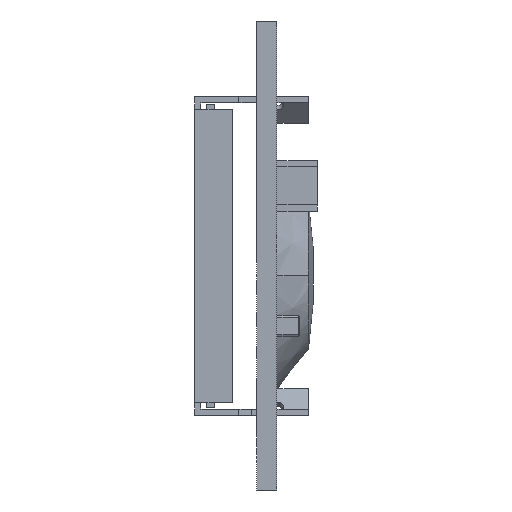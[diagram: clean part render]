
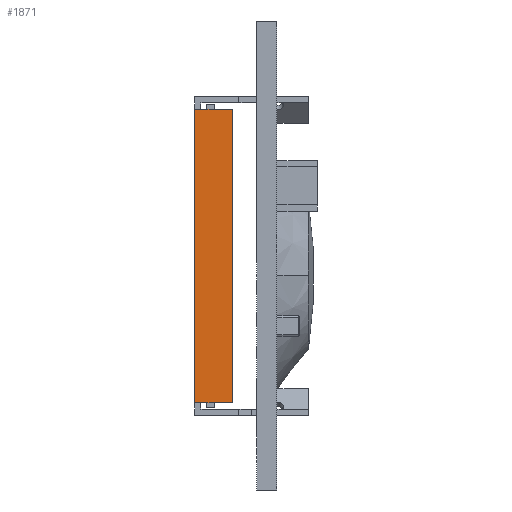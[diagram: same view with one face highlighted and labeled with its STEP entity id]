
A CAD part, left-side view. The second image highlights one B-rep face of the part: STEP entity #1871.
In plain terms, the highlighted planar face has unit normal (-1, 0, 0).
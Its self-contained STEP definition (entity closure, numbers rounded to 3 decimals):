
#200 = VECTOR ( 'NONE', #6055, 1000. ) ;
#1130 = EDGE_CURVE ( 'NONE', #5372, #5188, #10424, .T. ) ;
#1258 = VECTOR ( 'NONE', #4154, 1000. ) ;
#1266 = ORIENTED_EDGE ( 'NONE', *, *, #8582, .F. ) ;
#1871 = ADVANCED_FACE ( 'NONE', ( #6756 ), #7296, .T. ) ;
#2328 = VECTOR ( 'NONE', #2702, 1000. ) ;
#2484 = LINE ( 'NONE', #3244, #1258 ) ;
#2539 = CARTESIAN_POINT ( 'NONE',  ( 1023.75, 2142.771, -1. ) ) ;
#2702 = DIRECTION ( 'NONE',  ( 0., -1., 0. ) ) ;
#2919 = DIRECTION ( 'NONE',  ( -1., 0., 0. ) ) ;
#3244 = CARTESIAN_POINT ( 'NONE',  ( 1023.75, 2139.771, 0. ) ) ;
#3257 = CARTESIAN_POINT ( 'NONE',  ( 1023.75, 2142.771, 0. ) ) ;
#3332 = AXIS2_PLACEMENT_3D ( 'NONE', #4643, #2919, #4968 ) ;
#3368 = ORIENTED_EDGE ( 'NONE', *, *, #5312, .F. ) ;
#3583 = EDGE_CURVE ( 'NONE', #5881, #8817, #6108, .T. ) ;
#4154 = DIRECTION ( 'NONE',  ( 0., 0., -1. ) ) ;
#4630 = ORIENTED_EDGE ( 'NONE', *, *, #3583, .T. ) ;
#4643 = CARTESIAN_POINT ( 'NONE',  ( 1023.75, 2142.771, 0. ) ) ;
#4800 = CARTESIAN_POINT ( 'NONE',  ( 1023.75, 2142.771, -1. ) ) ;
#4968 = DIRECTION ( 'NONE',  ( 0., 0., 1. ) ) ;
#5188 = VERTEX_POINT ( 'NONE', #4800 ) ;
#5312 = EDGE_CURVE ( 'NONE', #5372, #8817, #2484, .T. ) ;
#5372 = VERTEX_POINT ( 'NONE', #8532 ) ;
#5792 = EDGE_LOOP ( 'NONE', ( #1266, #4630, #3368, #7416 ) ) ;
#5881 = VERTEX_POINT ( 'NONE', #11331 ) ;
#6055 = DIRECTION ( 'NONE',  ( 0., 1., 0. ) ) ;
#6108 = LINE ( 'NONE', #7827, #2328 ) ;
#6252 = CARTESIAN_POINT ( 'NONE',  ( 1023.75, 2139.771, -24.2 ) ) ;
#6756 = FACE_OUTER_BOUND ( 'NONE', #5792, .T. ) ;
#7296 = PLANE ( 'NONE',  #3332 ) ;
#7416 = ORIENTED_EDGE ( 'NONE', *, *, #1130, .T. ) ;
#7686 = LINE ( 'NONE', #3257, #8508 ) ;
#7827 = CARTESIAN_POINT ( 'NONE',  ( 1023.75, 2142.771, -24.2 ) ) ;
#8508 = VECTOR ( 'NONE', #10219, 1000. ) ;
#8532 = CARTESIAN_POINT ( 'NONE',  ( 1023.75, 2139.771, -1. ) ) ;
#8582 = EDGE_CURVE ( 'NONE', #5881, #5188, #7686, .T. ) ;
#8817 = VERTEX_POINT ( 'NONE', #6252 ) ;
#10219 = DIRECTION ( 'NONE',  ( 0., 0., 1. ) ) ;
#10424 = LINE ( 'NONE', #2539, #200 ) ;
#11331 = CARTESIAN_POINT ( 'NONE',  ( 1023.75, 2142.771, -24.2 ) ) ;
